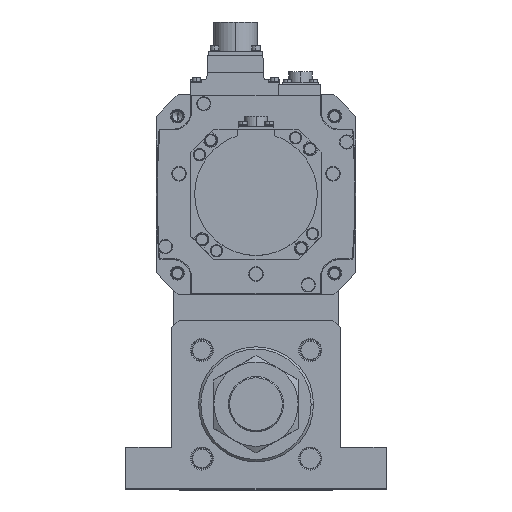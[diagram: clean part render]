
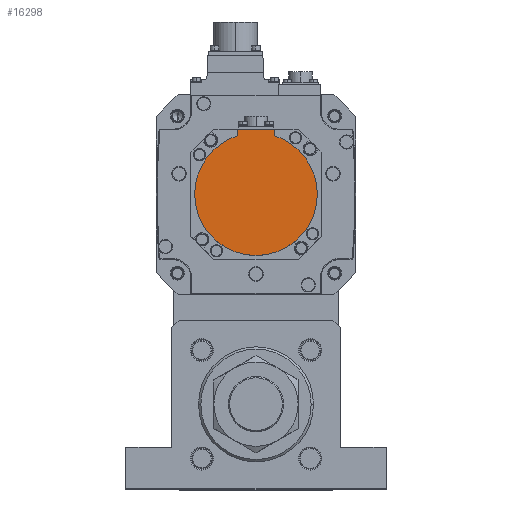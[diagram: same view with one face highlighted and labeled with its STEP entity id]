
A CAD part, top view. The second image highlights one B-rep face of the part: STEP entity #16298.
In plain terms, the highlighted planar face has unit normal (0, 0, 1) as drawn and (0, 0, -1) by its records, which use the part's own axes.
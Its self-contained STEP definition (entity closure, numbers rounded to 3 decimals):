
#907 = CARTESIAN_POINT ( 'NONE',  ( 0., 0., -167. ) ) ;
#1454 = CIRCLE ( 'NONE', #25752, 40. ) ;
#1863 = ORIENTED_EDGE ( 'NONE', *, *, #11165, .F. ) ;
#1899 = VERTEX_POINT ( 'NONE', #7339 ) ;
#3388 = CARTESIAN_POINT ( 'NONE',  ( 0., -1.249, -167. ) ) ;
#3448 = ORIENTED_EDGE ( 'NONE', *, *, #26285, .F. ) ;
#3485 = CARTESIAN_POINT ( 'NONE',  ( 0., 0., -167. ) ) ;
#4060 = VERTEX_POINT ( 'NONE', #9315 ) ;
#6436 = CARTESIAN_POINT ( 'NONE',  ( -40., 0., -167. ) ) ;
#7085 = CARTESIAN_POINT ( 'NONE',  ( 0., 0., -167. ) ) ;
#7165 = CARTESIAN_POINT ( 'NONE',  ( 0., -42.5, -167. ) ) ;
#7339 = CARTESIAN_POINT ( 'NONE',  ( 12., -42.5, -167. ) ) ;
#8138 = VECTOR ( 'NONE', #10614, 1000. ) ;
#9035 = PLANE ( 'NONE',  #18898 ) ;
#9315 = CARTESIAN_POINT ( 'NONE',  ( -12., -42.5, -167. ) ) ;
#9942 = LINE ( 'NONE', #15816, #8138 ) ;
#9967 = FACE_OUTER_BOUND ( 'NONE', #13531, .T. ) ;
#10309 = DIRECTION ( 'NONE',  ( -1., 0., 0. ) ) ;
#10614 = DIRECTION ( 'NONE',  ( 0., 1., 0. ) ) ;
#10949 = EDGE_CURVE ( 'NONE', #1899, #19795, #31893, .T. ) ;
#10958 = DIRECTION ( 'NONE',  ( 0., 1., 0. ) ) ;
#11145 = CIRCLE ( 'NONE', #11232, 40. ) ;
#11165 = EDGE_CURVE ( 'NONE', #19795, #33373, #1454, .T. ) ;
#11232 = AXIS2_PLACEMENT_3D ( 'NONE', #3485, #21073, #34988 ) ;
#12037 = DIRECTION ( 'NONE',  ( 0., 0., 1. ) ) ;
#12040 = DIRECTION ( 'NONE',  ( 1., 0., 0. ) ) ;
#13114 = VECTOR ( 'NONE', #10958, 1000. ) ;
#13531 = EDGE_LOOP ( 'NONE', ( #16207, #24170, #3448, #1863, #21980, #14758 ) ) ;
#14758 = ORIENTED_EDGE ( 'NONE', *, *, #24073, .T. ) ;
#15559 = DIRECTION ( 'NONE',  ( 1., 0., 0. ) ) ;
#15816 = CARTESIAN_POINT ( 'NONE',  ( -12., -40.329, -167. ) ) ;
#15870 = AXIS2_PLACEMENT_3D ( 'NONE', #7085, #18541, #15559 ) ;
#16207 = ORIENTED_EDGE ( 'NONE', *, *, #26642, .T. ) ;
#16298 = ADVANCED_FACE ( 'NONE', ( #9967 ), #9035, .F. ) ;
#16409 = CARTESIAN_POINT ( 'NONE',  ( 12., -38.158, -167. ) ) ;
#17617 = DIRECTION ( 'NONE',  ( 1., 0., 0. ) ) ;
#18541 = DIRECTION ( 'NONE',  ( 0., 0., 1. ) ) ;
#18898 = AXIS2_PLACEMENT_3D ( 'NONE', #3388, #12037, #17617 ) ;
#19795 = VERTEX_POINT ( 'NONE', #16409 ) ;
#21073 = DIRECTION ( 'NONE',  ( 0., 0., 1. ) ) ;
#21980 = ORIENTED_EDGE ( 'NONE', *, *, #10949, .F. ) ;
#22112 = VECTOR ( 'NONE', #10309, 1000. ) ;
#24073 = EDGE_CURVE ( 'NONE', #1899, #4060, #31533, .T. ) ;
#24170 = ORIENTED_EDGE ( 'NONE', *, *, #36869, .F. ) ;
#25306 = CARTESIAN_POINT ( 'NONE',  ( 40., 0., -167. ) ) ;
#25623 = VERTEX_POINT ( 'NONE', #6436 ) ;
#25752 = AXIS2_PLACEMENT_3D ( 'NONE', #907, #32021, #12040 ) ;
#26285 = EDGE_CURVE ( 'NONE', #33373, #25623, #29166, .T. ) ;
#26642 = EDGE_CURVE ( 'NONE', #4060, #35672, #9942, .T. ) ;
#26838 = CARTESIAN_POINT ( 'NONE',  ( -12., -38.158, -167. ) ) ;
#29166 = CIRCLE ( 'NONE', #15870, 40. ) ;
#31533 = LINE ( 'NONE', #7165, #22112 ) ;
#31893 = LINE ( 'NONE', #36661, #13114 ) ;
#32021 = DIRECTION ( 'NONE',  ( 0., 0., 1. ) ) ;
#33373 = VERTEX_POINT ( 'NONE', #25306 ) ;
#34988 = DIRECTION ( 'NONE',  ( 1., 0., 0. ) ) ;
#35672 = VERTEX_POINT ( 'NONE', #26838 ) ;
#36661 = CARTESIAN_POINT ( 'NONE',  ( 12., -1.249, -167. ) ) ;
#36869 = EDGE_CURVE ( 'NONE', #25623, #35672, #11145, .T. ) ;
